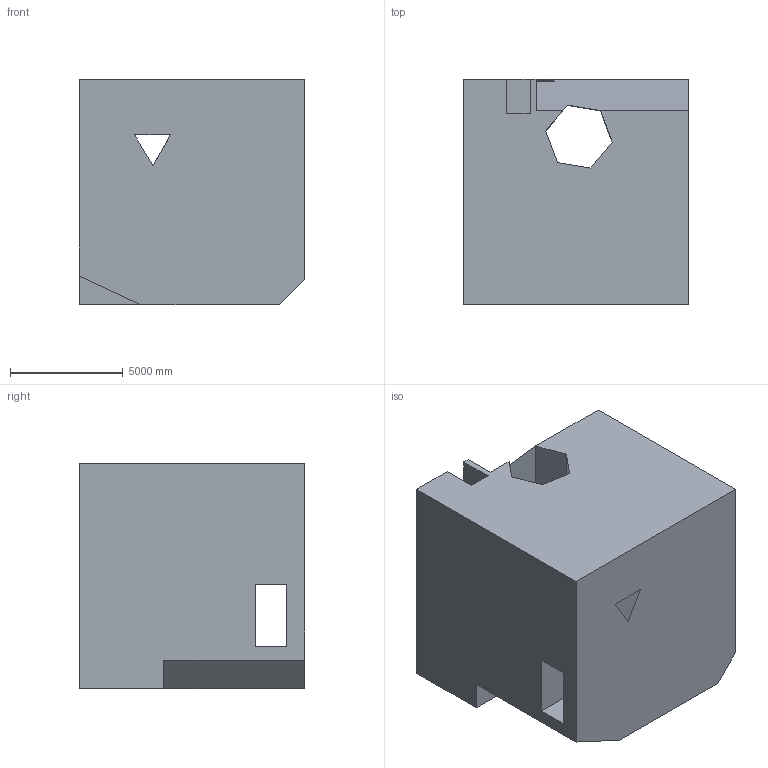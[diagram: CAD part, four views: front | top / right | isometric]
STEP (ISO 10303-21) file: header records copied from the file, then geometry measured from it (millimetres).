
FILE_DESCRIPTION (( 'STEP AP203' ), '1' );
FILE_NAME ('1670.STEP', '2022-08-19T11:33:57', ( 'user' ), ( '' ), 'SwSTEP 2.0', 'SolidWorks 2021', '' );
FILE_SCHEMA (( 'CONFIG_CONTROL_DESIGN' ));
Length unit declared in the file: centimetre
Products named in the file (1): 1670
Bounding box: 10000 x 10000 x 10000 mm (x, y, z)
Volume: 854204118738.7 mm3; surface area: 790465159.1 mm2
Topology: 1 solids, 1 shells, 30 faces, 96 edges, 64 vertices
Faces by surface type: plane 30
Entity records: 1133 total; most frequent: ORIENTED_EDGE 192, CARTESIAN_POINT 191, DIRECTION 158, LINE 96, VECTOR 96, EDGE_CURVE 96, VERTEX_POINT 64, EDGE_LOOP 34
